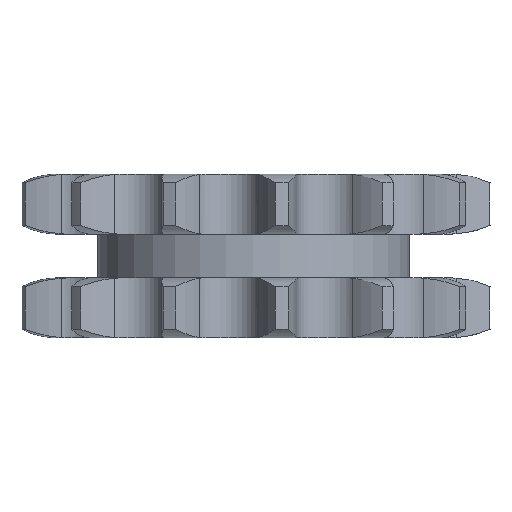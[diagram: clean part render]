
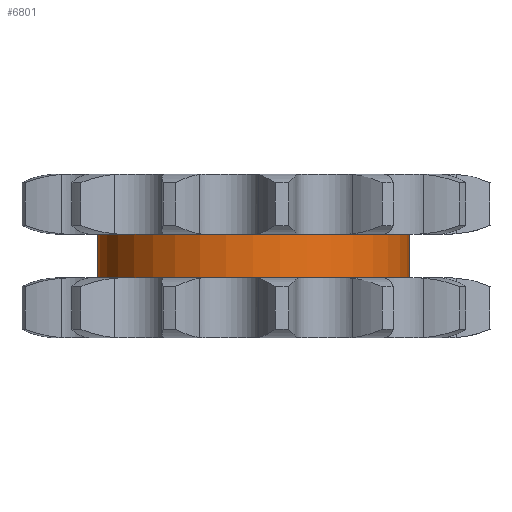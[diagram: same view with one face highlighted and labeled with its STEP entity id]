
A CAD part, left-side view. The second image highlights one B-rep face of the part: STEP entity #6801.
In plain terms, the highlighted cylindrical face has radius 28.801 mm (diameter 57.602 mm), a partial arc.
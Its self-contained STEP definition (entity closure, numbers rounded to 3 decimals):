
#1824=DIRECTION('',(0.,0.,-1.));
#1825=VECTOR('',#1824,8.1);
#1826=CARTESIAN_POINT('',(0.,28.801,4.05));
#1827=LINE('',#1826,#1825);
#1831=CARTESIAN_POINT('',(0.,0.,4.05));
#1832=DIRECTION('',(0.,0.,1.));
#1833=DIRECTION('',(0.,1.,0.));
#1834=AXIS2_PLACEMENT_3D('',#1831,#1832,#1833);
#1839=DIRECTION('',(0.,0.,-1.));
#1840=VECTOR('',#1839,8.1);
#1841=CARTESIAN_POINT('',(0.,-28.801,4.05));
#1842=LINE('',#1841,#1840);
#1846=CARTESIAN_POINT('',(0.,0.,-4.05));
#1847=DIRECTION('',(0.,0.,1.));
#1848=DIRECTION('',(0.,1.,0.));
#1849=AXIS2_PLACEMENT_3D('',#1846,#1847,#1848);
#4697=CARTESIAN_POINT('',(0.,28.801,4.05));
#4698=CARTESIAN_POINT('',(0.,28.801,-4.05));
#4699=VERTEX_POINT('',#4697);
#4700=VERTEX_POINT('',#4698);
#4701=CARTESIAN_POINT('',(0.,-28.801,4.05));
#4702=CARTESIAN_POINT('',(0.,-28.801,-4.05));
#4703=VERTEX_POINT('',#4701);
#4704=VERTEX_POINT('',#4702);
#6789=CARTESIAN_POINT('',(0.,0.,4.455));
#6790=DIRECTION('',(0.,0.,-1.));
#6791=DIRECTION('',(0.,-1.,0.));
#6792=AXIS2_PLACEMENT_3D('',#6789,#6790,#6791);
#6793=CYLINDRICAL_SURFACE('',#6792,28.801);
#6794=ORIENTED_EDGE('',*,*,#6779,.F.);
#6795=ORIENTED_EDGE('',*,*,#6769,.T.);
#6796=ORIENTED_EDGE('',*,*,#6783,.T.);
#6798=ORIENTED_EDGE('',*,*,#6797,.F.);
#6799=EDGE_LOOP('',(#6794,#6795,#6796,#6798));
#6800=FACE_OUTER_BOUND('',#6799,.F.);
#6801=ADVANCED_FACE('',(#6800),#6793,.T.);
#1835=CIRCLE('',#1834,28.801);
#1850=CIRCLE('',#1849,28.801);
#6769=EDGE_CURVE('',#4699,#4703,#1835,.T.);
#6779=EDGE_CURVE('',#4699,#4700,#1827,.T.);
#6783=EDGE_CURVE('',#4703,#4704,#1842,.T.);
#6797=EDGE_CURVE('',#4700,#4704,#1850,.T.);
